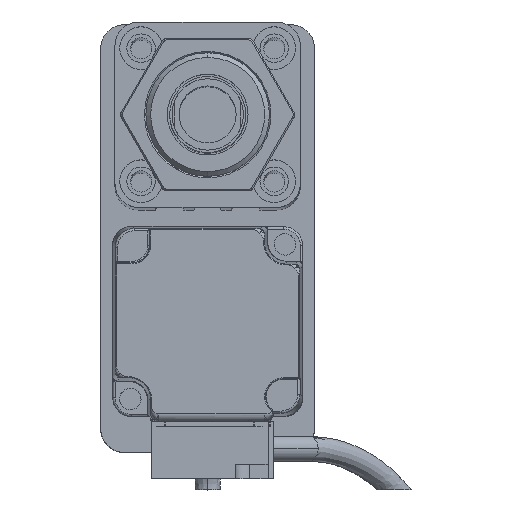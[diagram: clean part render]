
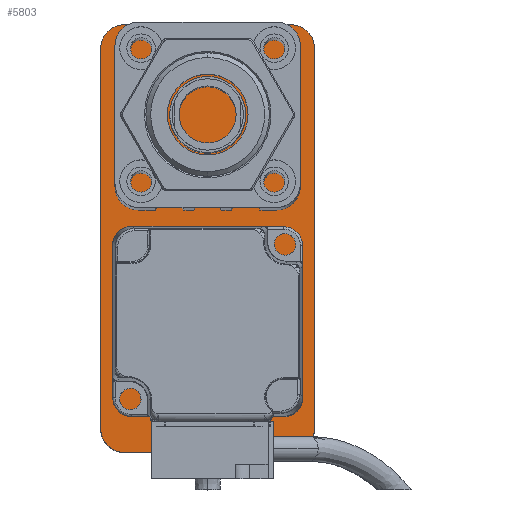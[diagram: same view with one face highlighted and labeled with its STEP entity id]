
A CAD part, top view. The second image highlights one B-rep face of the part: STEP entity #5803.
In plain terms, the highlighted planar face has unit normal (0, 0, 1).
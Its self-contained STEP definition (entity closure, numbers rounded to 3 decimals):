
#56 = EDGE_CURVE ( 'NONE', #25927, #17837, #14324, .T. ) ;
#157 = ORIENTED_EDGE ( 'NONE', *, *, #56, .T. ) ;
#487 = DIRECTION ( 'NONE',  ( 1., 0., 0. ) ) ;
#717 = AXIS2_PLACEMENT_3D ( 'NONE', #17662, #25905, #487 ) ;
#1455 = DIRECTION ( 'NONE',  ( 0., 1., 0. ) ) ;
#1610 = ORIENTED_EDGE ( 'NONE', *, *, #19415, .T. ) ;
#1629 = DIRECTION ( 'NONE',  ( 0., 0., 1. ) ) ;
#2048 = DIRECTION ( 'NONE',  ( 1., 0., 0. ) ) ;
#2805 = DIRECTION ( 'NONE',  ( 0., 0., 1. ) ) ;
#3166 = LINE ( 'NONE', #17330, #8851 ) ;
#3607 = LINE ( 'NONE', #12069, #19993 ) ;
#3940 = CARTESIAN_POINT ( 'NONE',  ( 0., 0., 10. ) ) ;
#4776 = ORIENTED_EDGE ( 'NONE', *, *, #16287, .T. ) ;
#5553 = VERTEX_POINT ( 'NONE', #10616 ) ;
#5803 = ADVANCED_FACE ( 'NONE', ( #18053 ), #20932, .T. ) ;
#6406 = VERTEX_POINT ( 'NONE', #20336 ) ;
#7335 = AXIS2_PLACEMENT_3D ( 'NONE', #18904, #12563, #12652 ) ;
#8334 = CARTESIAN_POINT ( 'NONE',  ( 22.5, 45., 10. ) ) ;
#8514 = CARTESIAN_POINT ( 'NONE',  ( -17.5, 45., 10. ) ) ;
#8851 = VECTOR ( 'NONE', #26212, 1000. ) ;
#10093 = CARTESIAN_POINT ( 'NONE',  ( 22.5, 40., 10. ) ) ;
#10137 = DIRECTION ( 'NONE',  ( 1., 0., 0. ) ) ;
#10347 = EDGE_CURVE ( 'NONE', #21328, #6406, #14500, .T. ) ;
#10616 = CARTESIAN_POINT ( 'NONE',  ( -17.5, -45., 10. ) ) ;
#10648 = VERTEX_POINT ( 'NONE', #18396 ) ;
#10699 = EDGE_CURVE ( 'NONE', #24198, #25927, #19501, .T. ) ;
#11010 = ORIENTED_EDGE ( 'NONE', *, *, #10699, .T. ) ;
#11022 = AXIS2_PLACEMENT_3D ( 'NONE', #11261, #2805, #13426 ) ;
#11261 = CARTESIAN_POINT ( 'NONE',  ( -17.5, -40., 10. ) ) ;
#11442 = ORIENTED_EDGE ( 'NONE', *, *, #10347, .T. ) ;
#12069 = CARTESIAN_POINT ( 'NONE',  ( -22.5, -45., 10. ) ) ;
#12167 = DIRECTION ( 'NONE',  ( 0., -1., 0. ) ) ;
#12563 = DIRECTION ( 'NONE',  ( 0., 0., 1. ) ) ;
#12652 = DIRECTION ( 'NONE',  ( 1., 0., 0. ) ) ;
#13392 = EDGE_CURVE ( 'NONE', #5553, #10648, #3166, .T. ) ;
#13426 = DIRECTION ( 'NONE',  ( 1., 0., 0. ) ) ;
#13833 = VECTOR ( 'NONE', #1455, 1000. ) ;
#14156 = EDGE_CURVE ( 'NONE', #14932, #5553, #27222, .T. ) ;
#14324 = CIRCLE ( 'NONE', #16907, 5. ) ;
#14392 = CARTESIAN_POINT ( 'NONE',  ( 22.5, -45., 10. ) ) ;
#14500 = CIRCLE ( 'NONE', #717, 5. ) ;
#14932 = VERTEX_POINT ( 'NONE', #23683 ) ;
#16287 = EDGE_CURVE ( 'NONE', #17837, #21328, #21788, .T. ) ;
#16907 = AXIS2_PLACEMENT_3D ( 'NONE', #22937, #1629, #10137 ) ;
#17330 = CARTESIAN_POINT ( 'NONE',  ( 22.5, -45., 10. ) ) ;
#17426 = CARTESIAN_POINT ( 'NONE',  ( 22.5, -40., 10. ) ) ;
#17662 = CARTESIAN_POINT ( 'NONE',  ( -17.5, 40., 10. ) ) ;
#17711 = ORIENTED_EDGE ( 'NONE', *, *, #13392, .T. ) ;
#17837 = VERTEX_POINT ( 'NONE', #20117 ) ;
#18053 = FACE_OUTER_BOUND ( 'NONE', #24603, .T. ) ;
#18396 = CARTESIAN_POINT ( 'NONE',  ( 17.5, -45., 10. ) ) ;
#18495 = VECTOR ( 'NONE', #19380, 1000. ) ;
#18904 = CARTESIAN_POINT ( 'NONE',  ( 17.5, -40., 10. ) ) ;
#19295 = ORIENTED_EDGE ( 'NONE', *, *, #26001, .T. ) ;
#19380 = DIRECTION ( 'NONE',  ( -1., 0., 0. ) ) ;
#19415 = EDGE_CURVE ( 'NONE', #6406, #14932, #3607, .T. ) ;
#19501 = LINE ( 'NONE', #14392, #13833 ) ;
#19802 = AXIS2_PLACEMENT_3D ( 'NONE', #3940, #23465, #2048 ) ;
#19993 = VECTOR ( 'NONE', #12167, 1000. ) ;
#20117 = CARTESIAN_POINT ( 'NONE',  ( 17.5, 45., 10. ) ) ;
#20336 = CARTESIAN_POINT ( 'NONE',  ( -22.5, 40., 10. ) ) ;
#20932 = PLANE ( 'NONE',  #19802 ) ;
#21127 = CIRCLE ( 'NONE', #7335, 5. ) ;
#21328 = VERTEX_POINT ( 'NONE', #8514 ) ;
#21788 = LINE ( 'NONE', #8334, #18495 ) ;
#22937 = CARTESIAN_POINT ( 'NONE',  ( 17.5, 40., 10. ) ) ;
#23465 = DIRECTION ( 'NONE',  ( 0., 0., 1. ) ) ;
#23683 = CARTESIAN_POINT ( 'NONE',  ( -22.5, -40., 10. ) ) ;
#24052 = ORIENTED_EDGE ( 'NONE', *, *, #14156, .T. ) ;
#24198 = VERTEX_POINT ( 'NONE', #17426 ) ;
#24603 = EDGE_LOOP ( 'NONE', ( #11010, #157, #4776, #11442, #1610, #24052, #17711, #19295 ) ) ;
#25905 = DIRECTION ( 'NONE',  ( 0., 0., 1. ) ) ;
#25927 = VERTEX_POINT ( 'NONE', #10093 ) ;
#26001 = EDGE_CURVE ( 'NONE', #10648, #24198, #21127, .T. ) ;
#26212 = DIRECTION ( 'NONE',  ( 1., 0., 0. ) ) ;
#27222 = CIRCLE ( 'NONE', #11022, 5. ) ;
